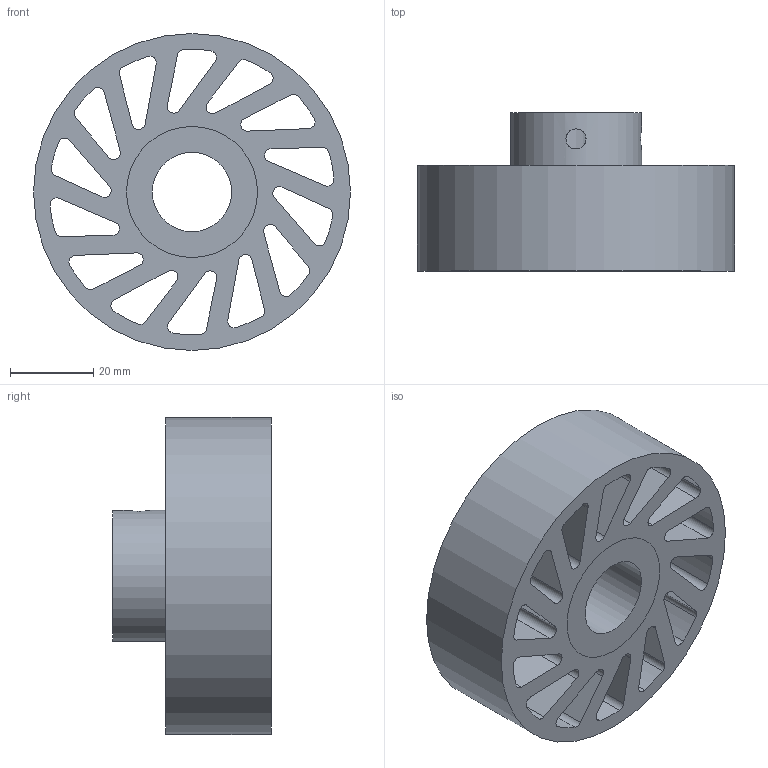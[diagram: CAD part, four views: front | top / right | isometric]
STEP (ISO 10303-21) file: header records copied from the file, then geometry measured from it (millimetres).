
FILE_DESCRIPTION(/* description */ (''),/* implementation_level */ '2;1');
FILE_NAME(/* name */ 'NCW-680-DUR-CLR.stp',/* time_stamp */ '2023-02-01T16:37:49-06:00',/* author */ ('AG'),/* organization */ ('Meridian Laboratory'),/* preprocessor_version */ 'ST-DEVELOPER v18.1',/* originating_system */ 'Autodesk Inventor 2022',/* authorisation */ '');
FILE_SCHEMA (('AUTOMOTIVE_DESIGN { 1 0 10303 214 3 1 1 }'));
Length unit declared in the file: inch
Products named in the file (1): NCW-640-DUR-CLR
Bounding box: 76.2 x 38.1 x 76.2 mm (x, y, z)
Volume: 79275.9 mm3; surface area: 35906 mm2
Topology: 2 solids, 2 shells, 94 faces, 274 edges, 184 vertices
Faces by surface type: cylinder 62, plane 32
Full cylindrical faces by diameter (mm): 4.826 x2, 19.075 x1, 31.496 x2, 76.2 x1
Entity records: 3512 total; most frequent: CARTESIAN_POINT 689, DIRECTION 576, ORIENTED_EDGE 548, EDGE_CURVE 274, AXIS2_PLACEMENT_3D 215, VERTEX_POINT 184, LINE 146, VECTOR 146
